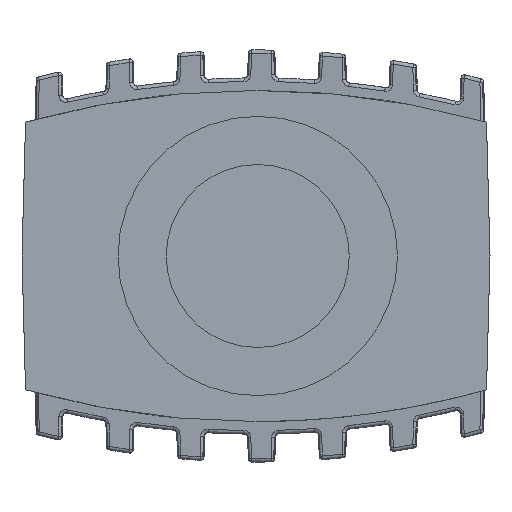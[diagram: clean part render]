
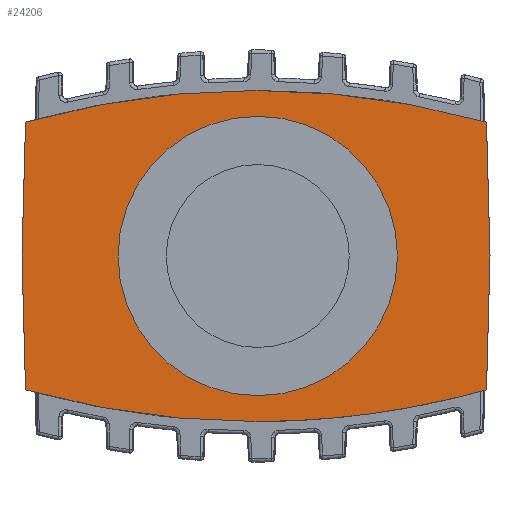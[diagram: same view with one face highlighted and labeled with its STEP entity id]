
A CAD part, front view. The second image highlights one B-rep face of the part: STEP entity #24206.
In plain terms, the highlighted planar face has unit normal (0, -1, 0).
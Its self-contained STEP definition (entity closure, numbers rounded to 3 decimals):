
#7990=CARTESIAN_POINT('',(16.405,0.,-22.558));
#7991=VERTEX_POINT('',#7990);
#8007=CARTESIAN_POINT('',(32.748,0.,-19.153));
#8008=VERTEX_POINT('',#8007);
#8015=CARTESIAN_POINT('',(-0.25,0.,98.3));
#8016=DIRECTION('',(0.0,-1.,0.0));
#8017=DIRECTION('',(-0.137,0.0,0.991));
#8018=AXIS2_PLACEMENT_3D('',#8015,#8016,#8017);
#8019=CIRCLE('',#8018,122.);
#8020=EDGE_CURVE('',#7991,#8008,#8019,.T.);
#8032=CARTESIAN_POINT('',(-0.25,0.0,23.7));
#8033=VERTEX_POINT('',#8032);
#8040=CARTESIAN_POINT('',(32.748,0.0,19.153));
#8041=VERTEX_POINT('',#8040);
#8042=CARTESIAN_POINT('',(-0.25,0.0,-98.3));
#8043=DIRECTION('',(0.0,-1.0,0.0));
#8044=DIRECTION('',(0.0,0.0,-1.0));
#8045=AXIS2_PLACEMENT_3D('',#8042,#8043,#8044);
#8046=CIRCLE('',#8045,122.);
#8047=EDGE_CURVE('',#8041,#8033,#8046,.T.);
#8091=CARTESIAN_POINT('',(-33.248,0.0,19.153));
#8092=VERTEX_POINT('',#8091);
#8099=CARTESIAN_POINT('',(-0.25,0.0,-98.3));
#8100=DIRECTION('',(0.0,-1.0,0.0));
#8101=DIRECTION('',(0.0,0.0,-1.0));
#8102=AXIS2_PLACEMENT_3D('',#8099,#8100,#8101);
#8103=CIRCLE('',#8102,122.);
#8104=EDGE_CURVE('',#8033,#8092,#8103,.T.);
#18118=CARTESIAN_POINT('',(-0.25,0.,-23.7));
#18119=VERTEX_POINT('',#18118);
#18128=CARTESIAN_POINT('',(-33.248,0.,-19.153));
#18129=VERTEX_POINT('',#18128);
#18130=CARTESIAN_POINT('',(-0.25,0.,98.3));
#18131=DIRECTION('',(0.0,1.,0.0));
#18132=DIRECTION('',(-0.137,0.0,0.991));
#18133=AXIS2_PLACEMENT_3D('',#18130,#18131,#18132);
#18134=CIRCLE('',#18133,122.);
#18135=EDGE_CURVE('',#18129,#18119,#18134,.F.);
#18187=CARTESIAN_POINT('',(-18.038,0.,-1.5));
#18188=VERTEX_POINT('',#18187);
#18204=CARTESIAN_POINT('',(18.038,0.,1.5));
#18205=VERTEX_POINT('',#18204);
#18212=CARTESIAN_POINT('',(0.,0.,0.));
#18213=DIRECTION('',(0.0,1.,0.0));
#18214=DIRECTION('',(0.997,0.0,0.083));
#18215=AXIS2_PLACEMENT_3D('',#18212,#18213,#18214);
#18216=CIRCLE('',#18215,18.1);
#18217=EDGE_CURVE('',#18188,#18205,#18216,.T.);
#23996=CARTESIAN_POINT('',(16.52,0.,-1.5));
#23997=VERTEX_POINT('',#23996);
#24004=CARTESIAN_POINT('',(16.52,0.,1.5));
#24005=VERTEX_POINT('',#24004);
#24006=CARTESIAN_POINT('',(16.52,0.,1.5));
#24007=DIRECTION('',(0.0,0.0,-1.0));
#24008=VECTOR('',#24007,3.);
#24009=LINE('',#24006,#24008);
#24010=EDGE_CURVE('',#24005,#23997,#24009,.T.);
#24129=CARTESIAN_POINT('',(18.038,0.,1.5));
#24130=DIRECTION('',(-1.0,0.0,0.0));
#24131=VECTOR('',#24130,1.517);
#24132=LINE('',#24129,#24131);
#24133=EDGE_CURVE('',#18205,#24005,#24132,.T.);
#24140=CARTESIAN_POINT('',(-37.1,0.,26.011));
#24141=DIRECTION('',(0.0,-1.0,0.0));
#24142=DIRECTION('',(0.0,0.0,-1.0));
#24143=AXIS2_PLACEMENT_3D('',#24140,#24141,#24142);
#24144=PLANE('',#24143);
#24145=ORIENTED_EDGE('',*,*,#18135,.T.);
#24146=CARTESIAN_POINT('',(-0.25,0.,98.3));
#24147=DIRECTION('',(0.0,-1.,0.0));
#24148=DIRECTION('',(-0.137,0.0,0.991));
#24149=AXIS2_PLACEMENT_3D('',#24146,#24147,#24148);
#24150=CIRCLE('',#24149,122.);
#24151=EDGE_CURVE('',#18119,#7991,#24150,.T.);
#24152=ORIENTED_EDGE('',*,*,#24151,.T.);
#24153=ORIENTED_EDGE('',*,*,#8020,.T.);
#24154=CARTESIAN_POINT('',(33.25,0.,0.));
#24155=VERTEX_POINT('',#24154);
#24156=CARTESIAN_POINT('',(32.748,0.,-19.153));
#24157=DIRECTION('',(0.026,0.0,1.));
#24158=VECTOR('',#24157,19.159);
#24159=LINE('',#24156,#24158);
#24160=EDGE_CURVE('',#8008,#24155,#24159,.T.);
#24161=ORIENTED_EDGE('',*,*,#24160,.T.);
#24162=CARTESIAN_POINT('',(33.25,0.,0.));
#24163=DIRECTION('',(-0.026,0.,1.));
#24164=VECTOR('',#24163,19.159);
#24165=LINE('',#24162,#24164);
#24166=EDGE_CURVE('',#24155,#8041,#24165,.T.);
#24167=ORIENTED_EDGE('',*,*,#24166,.T.);
#24168=ORIENTED_EDGE('',*,*,#8047,.T.);
#24169=ORIENTED_EDGE('',*,*,#8104,.T.);
#24170=CARTESIAN_POINT('',(-33.75,0.0,0.));
#24171=VERTEX_POINT('',#24170);
#24172=CARTESIAN_POINT('',(-33.248,0.0,19.153));
#24173=DIRECTION('',(-0.026,0.0,-1.));
#24174=VECTOR('',#24173,19.159);
#24175=LINE('',#24172,#24174);
#24176=EDGE_CURVE('',#8092,#24171,#24175,.T.);
#24177=ORIENTED_EDGE('',*,*,#24176,.T.);
#24178=CARTESIAN_POINT('',(-33.75,0.0,0.));
#24179=DIRECTION('',(0.026,0.,-1.));
#24180=VECTOR('',#24179,19.159);
#24181=LINE('',#24178,#24180);
#24182=EDGE_CURVE('',#24171,#18129,#24181,.T.);
#24183=ORIENTED_EDGE('',*,*,#24182,.T.);
#24184=EDGE_LOOP('',(#24145,#24152,#24153,#24161,#24167,#24168,#24169,#24177,#24183));
#24185=FACE_OUTER_BOUND('',#24184,.T.);
#24186=ORIENTED_EDGE('',*,*,#24010,.T.);
#24187=CARTESIAN_POINT('',(18.038,0.,-1.5));
#24188=VERTEX_POINT('',#24187);
#24189=CARTESIAN_POINT('',(18.038,0.,-1.5));
#24190=DIRECTION('',(-1.0,0.0,0.0));
#24191=VECTOR('',#24190,1.517);
#24192=LINE('',#24189,#24191);
#24193=EDGE_CURVE('',#23997,#24188,#24192,.F.);
#24194=ORIENTED_EDGE('',*,*,#24193,.T.);
#24195=CARTESIAN_POINT('',(0.,0.,0.));
#24196=DIRECTION('',(0.0,-1.,0.0));
#24197=DIRECTION('',(0.997,0.0,0.083));
#24198=AXIS2_PLACEMENT_3D('',#24195,#24196,#24197);
#24199=CIRCLE('',#24198,18.1);
#24200=EDGE_CURVE('',#24188,#18188,#24199,.F.);
#24201=ORIENTED_EDGE('',*,*,#24200,.T.);
#24202=ORIENTED_EDGE('',*,*,#18217,.T.);
#24203=ORIENTED_EDGE('',*,*,#24133,.T.);
#24204=EDGE_LOOP('',(#24186,#24194,#24201,#24202,#24203));
#24205=FACE_BOUND('',#24204,.T.);
#24206=ADVANCED_FACE('',(#24185,#24205),#24144,.T.);
